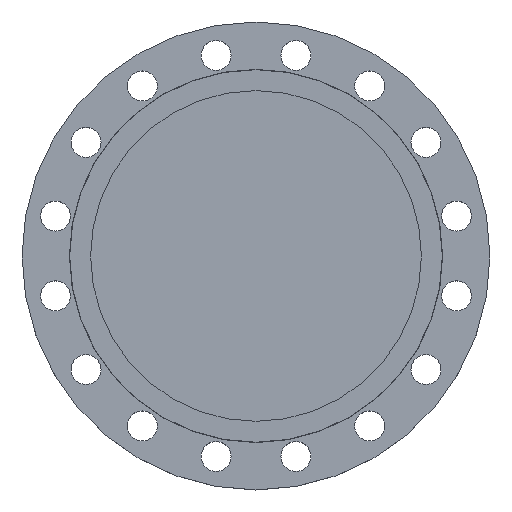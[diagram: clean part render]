
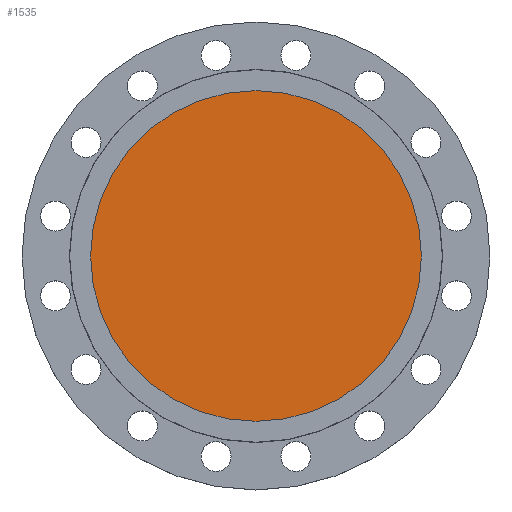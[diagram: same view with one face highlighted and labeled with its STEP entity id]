
A CAD part, top view. The second image highlights one B-rep face of the part: STEP entity #1535.
In plain terms, the highlighted planar face has unit normal (0, 0, 1).
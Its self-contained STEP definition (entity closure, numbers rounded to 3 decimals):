
#129 = CIRCLE ( 'NONE', #138, 182. ) ;
#134 = CARTESIAN_POINT ( 'NONE',  ( 182., 0., -4.5 ) ) ;
#138 = AXIS2_PLACEMENT_3D ( 'NONE', #1354, #1349, #835 ) ;
#484 = EDGE_LOOP ( 'NONE', ( #1188, #1240 ) ) ;
#774 = AXIS2_PLACEMENT_3D ( 'NONE', #1701, #1691, #1685 ) ;
#777 = CIRCLE ( 'NONE', #774, 182. ) ;
#799 = EDGE_CURVE ( 'NONE', #1260, #977, #777, .T. ) ;
#835 = DIRECTION ( 'NONE',  ( -1., 0., 0. ) ) ;
#977 = VERTEX_POINT ( 'NONE', #1342 ) ;
#1120 = EDGE_CURVE ( 'NONE', #977, #1260, #129, .T. ) ;
#1170 = DIRECTION ( 'NONE',  ( 1., 0., 0. ) ) ;
#1171 = DIRECTION ( 'NONE',  ( 0., 0., 1. ) ) ;
#1176 = CARTESIAN_POINT ( 'NONE',  ( 182., 0., -4.5 ) ) ;
#1178 = PLANE ( 'NONE',  #1324 ) ;
#1179 = FACE_OUTER_BOUND ( 'NONE', #484, .T. ) ;
#1188 = ORIENTED_EDGE ( 'NONE', *, *, #1120, .F. ) ;
#1240 = ORIENTED_EDGE ( 'NONE', *, *, #799, .F. ) ;
#1260 = VERTEX_POINT ( 'NONE', #134 ) ;
#1324 = AXIS2_PLACEMENT_3D ( 'NONE', #1176, #1171, #1170 ) ;
#1342 = CARTESIAN_POINT ( 'NONE',  ( -182., 0., -4.5 ) ) ;
#1349 = DIRECTION ( 'NONE',  ( 0., 0., -1. ) ) ;
#1354 = CARTESIAN_POINT ( 'NONE',  ( 0., 0., -4.5 ) ) ;
#1535 = ADVANCED_FACE ( 'NONE', ( #1179 ), #1178, .T. ) ;
#1685 = DIRECTION ( 'NONE',  ( -1., 0., 0. ) ) ;
#1691 = DIRECTION ( 'NONE',  ( 0., 0., -1. ) ) ;
#1701 = CARTESIAN_POINT ( 'NONE',  ( 0., 0., -4.5 ) ) ;
